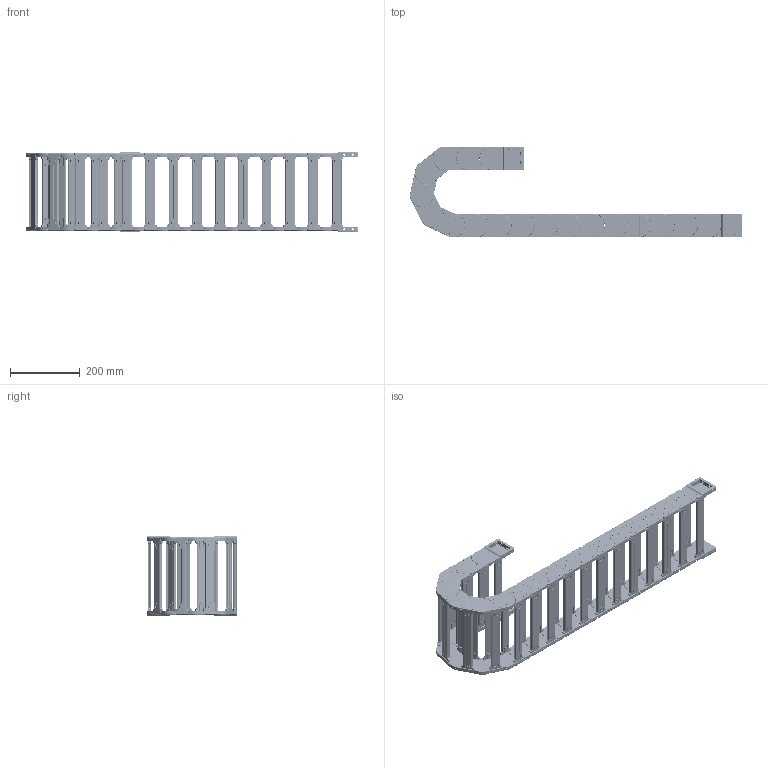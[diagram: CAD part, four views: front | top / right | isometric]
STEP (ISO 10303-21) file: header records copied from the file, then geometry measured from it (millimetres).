
FILE_DESCRIPTION (( 'STEP AP214' ), '1' );
FILE_NAME ('J45Q.1.200S-3D賦凳芞.STEP', '2019-01-10T00:15:10', ( 'Sky123.Org' ), ( 'Sky123.Org' ), 'SwSTEP 2.0', 'SolidWorks 2017', '' );
FILE_SCHEMA (( 'AUTOMOTIVE_DESIGN' ));
Length unit declared in the file: millimetre
Products named in the file (10): 5-N45X75-源諉俋; 45-N源諉芛俋; 5-N45X75-源諉囀; 45-臏簽1; 45-N源諉芛囀; 5-N45X100-1; J45.1結え; 45-崝Ч翋极2; 45-崝Ч翋极1-R250; J45Q.1.200S-3D賦凳芞
Assembly tree (55 placements, depth 3):
  J45Q.1.200S-3D賦凳芞
    5-N45X100-1  x17
      45-崝Ч翋极1-R250
      45-崝Ч翋极2
      J45.1結え
    5-N45X75-源諉囀
      45-N源諉芛囀  x2
      J45.1結え  x2
      45-臏簽1  x12
    5-N45X75-源諉俋
      45-N源諉芛俋  x2
      J45.1結え  x2
      45-臏簽1  x12
Bounding box: 954.91 x 261 x 229 mm (x, y, z)
Volume: 3563353.9 mm3; surface area: 1442865.5 mm2
Topology: 100 solids, 100 shells, 20080 faces, 51658 edges, 31520 vertices
Faces by surface type: plane 7348, cylinder 6440, bspline 3788, torus 1508, sphere 768, cone 228
Entity records: 33152 total; most frequent: CARTESIAN_POINT 10875, ORIENTED_EDGE 4608, DIRECTION 4494, EDGE_CURVE 2304, AXIS2_PLACEMENT_3D 1615, VERTEX_POINT 1438, LINE 1264, VECTOR 1264
